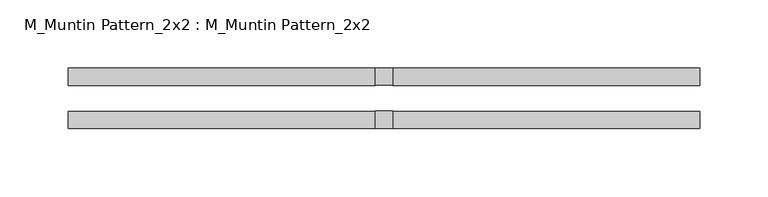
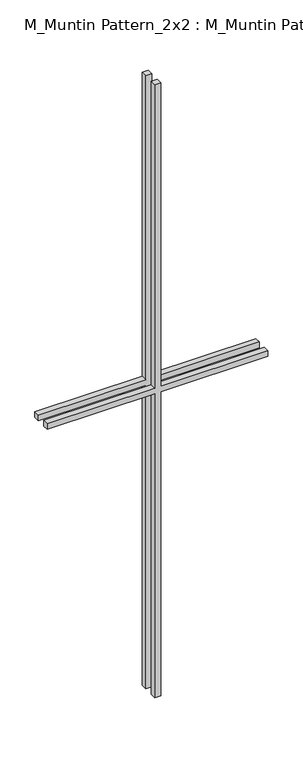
"""IFC4 building model written with IfcOpenShell, lengths in millimetres: proxy geometry, M_Muntin Pattern_2x2 : M_Muntin Pattern_2x2."""

import ifcopenshell
import ifcopenshell.guid

model = None  # the IFC model being written
_history = None  # IfcOwnerHistory: only IFC2X3 demands one
_inside = {}  # id of a spatial element -> (the spatial element, [elements in it])
_under = {}  # id of a project, library or spatial element -> (it, [spatial elements below it])
_declared = {}  # id of a project -> (the project, [libraries it declares])
_typed = {}  # id of a type object -> (the type object, [elements of that type])
_made_of = {}  # id of a material, layer set ... -> (it, [elements and type objects made of it])


def new_model(schema):
    """Start an empty IFC model of exactly this schema.

    Asked for "IFC4X3", IfcOpenShell would pick the latest addendum, in which some entities
    have other attributes; the version numbers below select the first issue.
    IFC2X3 requires an IfcOwnerHistory on every rooted entity: one is made here for all.
    """
    global model, _history
    if schema == "IFC4X3":
        model = ifcopenshell.file(schema_version=(4, 3, 0, 0))
    else:
        model = ifcopenshell.file(schema=schema)
    _inside.clear()
    _under.clear()
    _declared.clear()
    _typed.clear()
    _made_of.clear()
    _history = None
    if model.schema == "IFC2X3":
        org = make("IfcOrganization", Name="unknown")
        user = make(
            "IfcPersonAndOrganization",
            ThePerson=make("IfcPerson", FamilyName="unknown"),
            TheOrganization=org,
        )
        app = make(
            "IfcApplication",
            ApplicationDeveloper=org,
            Version="unknown",
            ApplicationFullName="unknown",
            ApplicationIdentifier="unknown",
        )
        _history = make(
            "IfcOwnerHistory",
            OwningUser=user,
            OwningApplication=app,
            ChangeAction="ADDED",
            CreationDate=0,
        )
    return model


def make(cls, **values):
    """One entity of the class cls with the attributes given. An attribute that is None is left unset."""
    return model.create_entity(
        cls, **{name: value for name, value in values.items() if value is not None}
    )


def rooted(cls, **values):
    """An entity with a GlobalId (a new one), such as an element, a storey or a relation."""
    return make(cls, GlobalId=ifcopenshell.guid.new(), OwnerHistory=_history, **values)


def si_unit(unit_type, name, prefix=None):
    """IfcSIUnit, for example si_unit("LENGTHUNIT", "METRE", prefix="MILLI")."""
    return make("IfcSIUnit", UnitType=unit_type, Prefix=prefix, Name=name)


def assignment(units):
    """IfcUnitAssignment: the units of a project."""
    return None if units is None else make("IfcUnitAssignment", Units=units)


def point(xyz):
    """IfcCartesianPoint."""
    return None if xyz is None else make("IfcCartesianPoint", Coordinates=xyz)


def direction(xyz):
    """IfcDirection."""
    return None if xyz is None else make("IfcDirection", DirectionRatios=xyz)


def frame(location, z_axis=None, x_axis=None):
    """IfcAxis2Placement3D, a coordinate frame: its origin and axes. An axis left out is left unset."""
    return make(
        "IfcAxis2Placement3D",
        Location=point(location),
        Axis=direction(z_axis),
        RefDirection=direction(x_axis),
    )


def origin():
    """The frame at (0, 0, 0) with its axes left unset."""
    return frame((0.0, 0.0, 0.0))


def place(relative_to, where):
    """IfcLocalPlacement: puts the frame where relative to a parent placement (None: the world)."""
    return make(
        "IfcLocalPlacement", PlacementRelTo=relative_to, RelativePlacement=where
    )


def context(
    kind, dimensions, precision=None, world=None, true_north=None, identifier=None
):
    """IfcGeometricRepresentationContext, for example the 3D "Model" context."""
    return make(
        "IfcGeometricRepresentationContext",
        ContextIdentifier=identifier,
        ContextType=kind,
        CoordinateSpaceDimension=dimensions,
        Precision=precision,
        WorldCoordinateSystem=world,
        TrueNorth=true_north,
    )


def project(units=None, contexts=None):
    """IfcProject with its units and contexts."""
    return rooted(
        "IfcProject",
        Name="project",
        RepresentationContexts=contexts,
        UnitsInContext=assignment(units),
    )


def spatial(cls, under=None, at=None, **own):
    """A site, building, storey or space (cls), placed at a placement, below another one or the project."""
    s = rooted(cls, ObjectPlacement=at, **own)
    if under is not None:
        _under.setdefault(under.id(), (under, []))[1].append(s)
    return s


def polyline(points):
    """IfcPolyline through the points."""
    return make("IfcPolyline", Points=[point(p) for p in points])


def outline(outer, holes=None, kind="AREA"):
    """IfcArbitraryClosedProfileDef: a profile drawn as a closed curve; with holes, ...WithVoids."""
    if holes is None:
        return make("IfcArbitraryClosedProfileDef", ProfileType=kind, OuterCurve=outer)
    return make(
        "IfcArbitraryProfileDefWithVoids",
        ProfileType=kind,
        OuterCurve=outer,
        InnerCurves=holes,
    )


def extrude(swept, where, along, depth):
    """IfcExtrudedAreaSolid: the profile swept, set in the frame where, extruded along a direction by depth."""
    return make(
        "IfcExtrudedAreaSolid",
        SweptArea=swept,
        Position=where,
        ExtrudedDirection=direction(along),
        Depth=depth,
    )


def shape(context_of_items, identifier, shape_type, items):
    """IfcShapeRepresentation: the items that make up one representation, for example the "Body"."""
    return make(
        "IfcShapeRepresentation",
        ContextOfItems=context_of_items,
        RepresentationIdentifier=identifier,
        RepresentationType=shape_type,
        Items=items,
    )


def source(mapping_origin, context_of_items, identifier, shape_type, items):
    """IfcRepresentationMap: a shape defined once, which mapped items show again and again."""
    return make(
        "IfcRepresentationMap",
        MappingOrigin=mapping_origin,
        MappedRepresentation=shape(context_of_items, identifier, shape_type, items),
    )


def transform(
    local_origin,
    x_axis=None,
    y_axis=None,
    z_axis=None,
    scale=None,
    scale2=None,
    scale3=None,
    uniform=True,
):
    """IfcCartesianTransformationOperator3D, or its non-uniform kind. x_axis, y_axis, z_axis: its Axis1, 2, 3."""
    if uniform:
        return make(
            "IfcCartesianTransformationOperator3D",
            Axis1=direction(x_axis),
            Axis2=direction(y_axis),
            LocalOrigin=point(local_origin),
            Scale=scale,
            Axis3=direction(z_axis),
        )
    return make(
        "IfcCartesianTransformationOperator3DnonUniform",
        Axis1=direction(x_axis),
        Axis2=direction(y_axis),
        LocalOrigin=point(local_origin),
        Scale=scale,
        Axis3=direction(z_axis),
        Scale2=scale2,
        Scale3=scale3,
    )


def mapped(mapping_source, mapping_target):
    """IfcMappedItem: shows the shape of a source again, moved by a transform."""
    return make(
        "IfcMappedItem", MappingSource=mapping_source, MappingTarget=mapping_target
    )


def made_of(thing, what):
    """Note that an element or type object is made of a material, layer set ...; save() writes the relation."""
    if what is not None:
        _made_of.setdefault(what.id(), (what, []))[1].append(thing)
    return thing


def element(
    cls,
    number,
    at=None,
    inside=None,
    cuts=None,
    type_object=None,
    material=None,
    context=None,
    identifier="Body",
    shape_type=None,
    held_by="IfcProductDefinitionShape",
    body=None,
    shapes=None,
    **own,
):
    """One element of the class cls, such as IfcWall. Its Tag is "e" and its number.

    at: its placement. inside: the storey or other place that contains it. cuts: it is an
    opening in that element (IfcRelVoidsElement). A single representation is given by context,
    identifier, shape_type and body (its items); several are given by shapes. held_by: the class
    of the entity that holds the representations. save() writes the other relations.
    """
    e = rooted(cls, Tag="e%d" % number, ObjectPlacement=at, **own)
    if body is not None:
        shapes = [shape(context, identifier, shape_type, body)]
    if shapes is not None:
        e.Representation = make(held_by, Representations=shapes)
    if inside is not None:
        _inside.setdefault(inside.id(), (inside, []))[1].append(e)
    if cuts is not None:
        rooted(
            "IfcRelVoidsElement", RelatingBuildingElement=cuts, RelatedOpeningElement=e
        )
    if type_object is not None:
        _typed.setdefault(type_object.id(), (type_object, []))[1].append(e)
    return made_of(e, material)


def aggregate(whole, parts):
    """IfcRelAggregates: a whole, such as a stair, and the parts it consists of."""
    return rooted("IfcRelAggregates", RelatingObject=whole, RelatedObjects=parts)


def save(model, path):
    """Write the relations noted so far, then the file.

    IfcRelAggregates (storeys below a building ...), IfcRelContainedInSpatialStructure (elements
    in a storey), IfcRelDefinesByType, IfcRelAssociatesMaterial and IfcRelDeclares: one each for
    every whole, place, type object, material and project.
    """
    for whole, parts in _under.values():
        aggregate(whole, parts)
    for where, things in _inside.values():
        rooted(
            "IfcRelContainedInSpatialStructure",
            RelatedElements=things,
            RelatingStructure=where,
        )
    for kind, things in _typed.values():
        rooted("IfcRelDefinesByType", RelatedObjects=things, RelatingType=kind)
    for what, things in _made_of.values():
        rooted("IfcRelAssociatesMaterial", RelatedObjects=things, RelatingMaterial=what)
    for by, libraries in _declared.values():
        rooted("IfcRelDeclares", RelatingContext=by, RelatedDefinitions=libraries)
    model.write(path)


def m_muntin_pattern_2x2_m_muntin_pattern_2x2_dce6eb8c(model_context):
    return source(origin(), model_context, "Body", "SweptSolid", [
        extrude(outline(polyline([(686.5, -6.35), (686.5, -231.7375), (673.8, -231.7375), (673.8, -6.35), (0.0, -6.35), (0.0, 6.35), (673.8, 6.35), (673.8, 231.7375), (686.5, 231.7375), (686.5, 6.35), (1360.3, 6.35), (1360.3, -6.35), (686.5, -6.35)])), frame((0.0, -22.225, 0.0), z_axis=(0.0, 1.0, 0.0), x_axis=(0.0, 0.0, 1.0)), (0.0, 0.0, 1.0), 12.7),
        extrude(outline(polyline([(686.5, -6.35), (686.5, -231.7375), (673.8, -231.7375), (673.8, -6.35), (0.0, -6.35), (0.0, 6.35), (673.8, 6.35), (673.8, 231.7375), (686.5, 231.7375), (686.5, 6.35), (1360.3, 6.35), (1360.3, -6.35), (686.5, -6.35)])), frame((0.0, 9.525, 0.0), z_axis=(0.0, 1.0, 0.0), x_axis=(0.0, 0.0, 1.0)), (0.0, 0.0, 1.0), 12.7),
    ])


if __name__ == "__main__":
    model = new_model("IFC4")
    model_context = context("Model", 3, world=origin())
    ifc_project = project(units=[si_unit("LENGTHUNIT", "METRE", prefix="MILLI")], contexts=[model_context])
    site = spatial("IfcSite", under=ifc_project)
    building = spatial("IfcBuilding", under=site)
    placement = place(None, origin())
    m_muntin_pattern_2x2_m_muntin_pattern_2x2_shape = m_muntin_pattern_2x2_m_muntin_pattern_2x2_dce6eb8c(model_context)
    element("IfcBuildingElementProxy", 1, Name="M_Muntin Pattern_2x2 : M_Muntin Pattern_2x2", ObjectType="M_Muntin Pattern_2x2 : M_Muntin Pattern_2x2", at=placement, inside=building, context=model_context, shape_type="MappedRepresentation", body=[
        mapped(m_muntin_pattern_2x2_m_muntin_pattern_2x2_shape, transform((0.0, 0.0, 0.0), x_axis=(1.0, 0.0, 0.0), y_axis=(0.0, 1.0, 0.0), z_axis=(0.0, 0.0, 1.0))),
    ])
    save(model, "model.ifc")
